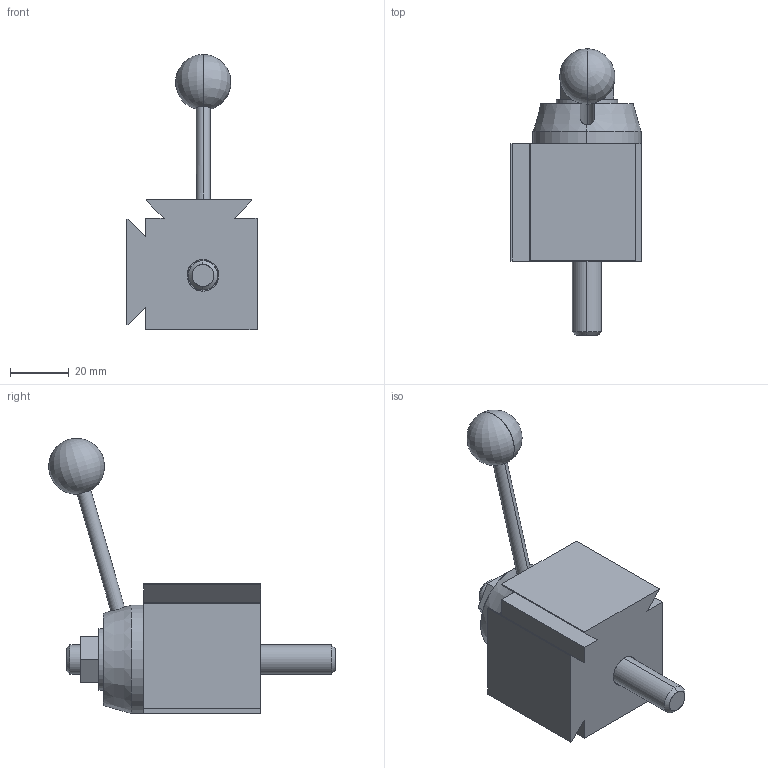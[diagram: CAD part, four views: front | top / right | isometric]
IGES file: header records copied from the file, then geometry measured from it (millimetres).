
Start section: SolidWorks IGES file using analytic representation for surfaces
Global section: file name: R:\Drawings\Files saved as other types\Solid_Models\MODELS FOR PUBLIC\31050 OXA TOOL POST.IGS; native system: SolidWorks 2014; preprocessor: SolidWorks 2014; author: rtooley; date: 160526.150237; units: inch
Bounding box: 44.45 x 97.93 x 93.99 mm (x, y, z)
Surface area: 21074.5 mm2 (no closed solid volume)
Topology: 0 solids, 0 shells, 219 faces, 3308 edges, 3307 vertices
Faces by surface type: bspline 191, revolution 28
